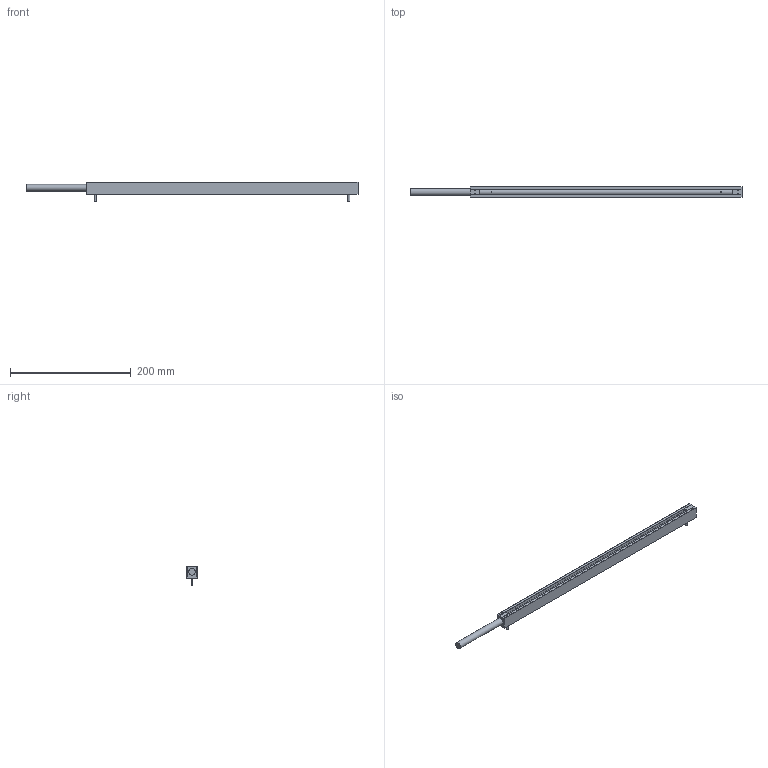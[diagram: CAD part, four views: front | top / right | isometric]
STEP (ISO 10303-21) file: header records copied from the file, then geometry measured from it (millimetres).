
FILE_DESCRIPTION(('Simco (Nederland) B.V.','HiCAD-Model','HiCAD-STEP-TRANSLATION','For information only'),'2;1');
FILE_NAME('SIMCO.STP','2012-01-01T00:00:00',('AB'),('www.simco-ion.nl'),' HiCAD 2011, Step 1600.0 ','HiCAD 2011','CONFIDENTIAL');
FILE_SCHEMA(('AUTOMOTIVE_DESIGN { 1 2 10303 214 0 1 1 1 }'));
Length unit declared in the file: millimetre
Products named in the file (2): SIMCO_MEB_450_TOTAL; SIMCO_MEB_133_203
Assembly tree (1 placements, depth 2):
  SIMCO_MEB_450_TOTAL
    SIMCO_MEB_133_203
Bounding box: 550 x 16.8 x 33 mm (x, y, z)
Volume: 75489.9 mm3; surface area: 85893.4 mm2
Topology: 1 solids, 2 shells, 56 faces, 150 edges, 99 vertices
Faces by surface type: plane 39, cylinder 13, cone 4
Full cylindrical faces by diameter (mm): 1.45 x2, 2.4 x4, 3.141 x2, 7.6 x1, 10.6 x1, 11 x1
Entity records: 2707 total; most frequent: CARTESIAN_POINT 764, DIRECTION 260, ORIENTED_EDGE 236, COLOUR_RGB 121, PRESENTATION_STYLE_ASSIGNMENT 121, OVER_RIDING_STYLED_ITEM 120, EDGE_CURVE 118, CURVE_STYLE 112
